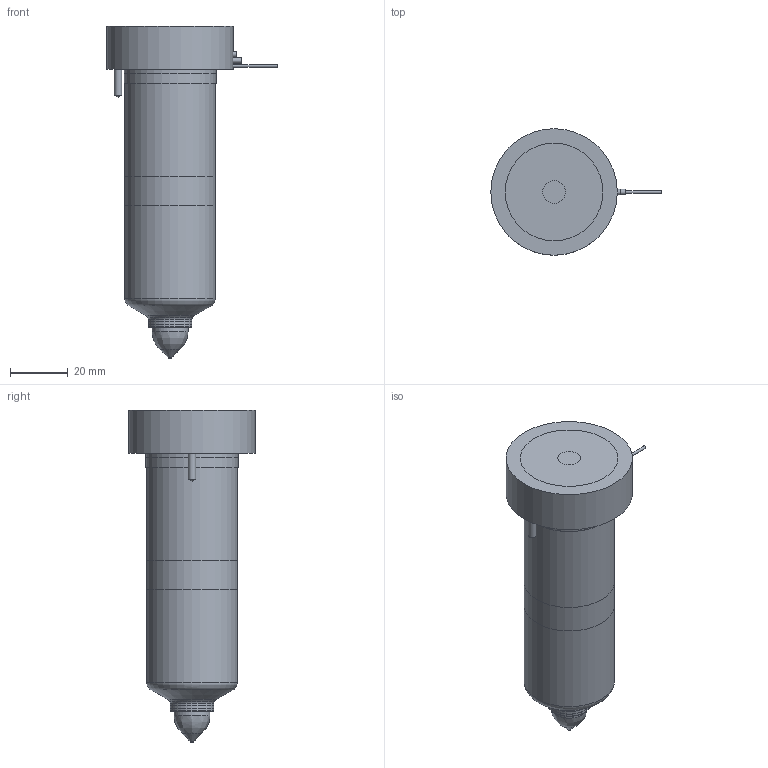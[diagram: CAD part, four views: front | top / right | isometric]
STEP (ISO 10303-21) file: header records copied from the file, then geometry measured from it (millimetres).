
FILE_DESCRIPTION(/* description */ (''),/* implementation_level */ '2;1');
FILE_NAME(/* name */ 'MXTT-MXIT19095-5_200C_b',/* time_stamp */ '2007-01-18T09:53:32+13:00',/* author */ (''),/* organization */ (''),/* preprocessor_version */ 'ST-DEVELOPER v9',/* originating_system */ 'UGS - NX 4.0',/* authorisation */ '');
FILE_SCHEMA (('CONFIG_CONTROL_DESIGN'));
Length unit declared in the file: millimetre
Products named in the file (1): MXTT-MXIT19095-5_200C_b
Bounding box: 59.25 x 44 x 115.46 mm (x, y, z)
Volume: 158146.9 mm3; surface area: 28895.2 mm2
Topology: 7 solids, 7 shells, 86 faces, 162 edges, 102 vertices
Faces by surface type: plane 35, cylinder 29, cone 12, torus 8, bspline 2
Full cylindrical faces by diameter (mm): 1 x3, 1.2 x1, 2 x2, 2.5 x2, 8 x1, 9 x1, 12.5 x1, 14.61 x1, 15.01 x2, 18.3 x1, 25.4 x1, 31.5 x2, 32 x2, 44 x1
Entity records: 2069 total; most frequent: CARTESIAN_POINT 427, DIRECTION 352, ORIENTED_EDGE 228, AXIS2_PLACEMENT_3D 163, EDGE_LOOP 138, EDGE_CURVE 114, VERTEX_POINT 95, ADVANCED_FACE 86
